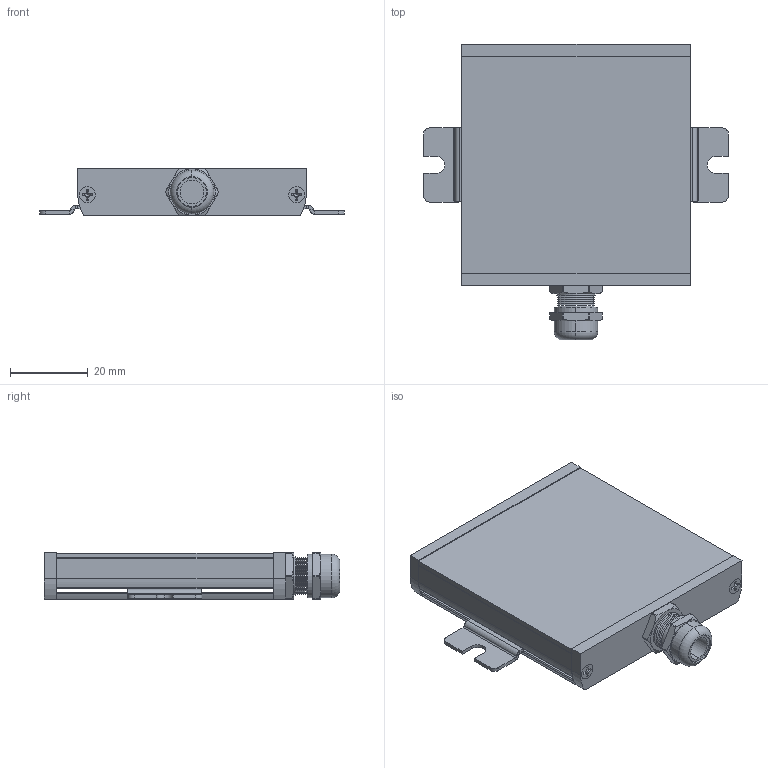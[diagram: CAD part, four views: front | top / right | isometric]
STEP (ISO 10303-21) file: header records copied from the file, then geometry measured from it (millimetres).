
FILE_DESCRIPTION (( 'STEP AP203' ), '1' );
FILE_NAME ('BL128.STEP', '2017-03-17T17:42:17', ( '' ), ( '' ), 'SwSTEP 2.0', 'SolidWorks 2017', '' );
FILE_SCHEMA (( 'CONFIG_CONTROL_DESIGN' ));
Length unit declared in the file: inch
Products named in the file (1): BL128
Bounding box: 78.38 x 76.04 x 12.16 mm (x, y, z)
Surface area: 13657.9 mm2 (no closed solid volume)
Topology: 0 solids, 43 shells, 303 faces, 951 edges, 691 vertices
Faces by surface type: plane 169, cylinder 68, cone 62, torus 4
Entity records: 11267 total; most frequent: CARTESIAN_POINT 3123, DIRECTION 1592, ORIENTED_EDGE 1561, EDGE_CURVE 943, VERTEX_POINT 691, AXIS2_PLACEMENT_3D 557, VECTOR 478, LINE 478
